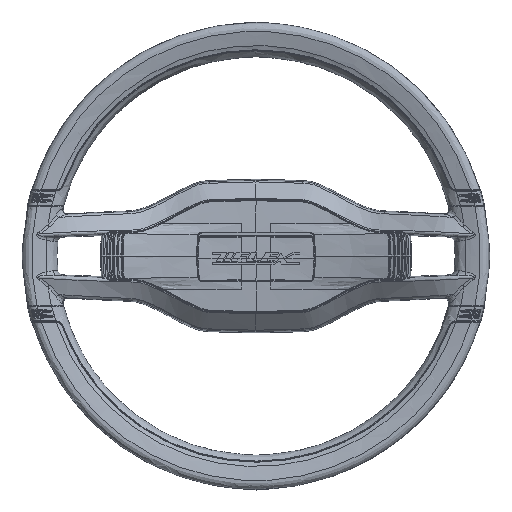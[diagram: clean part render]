
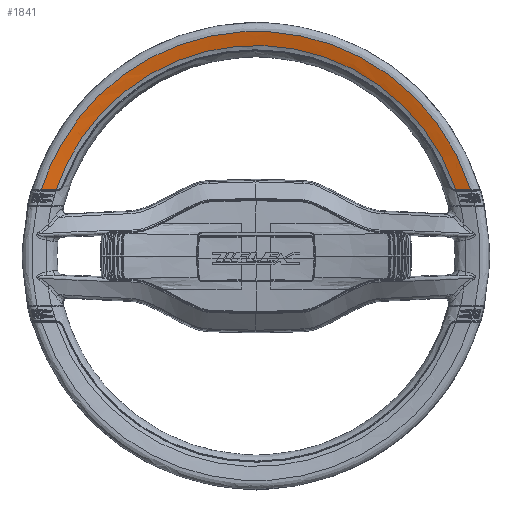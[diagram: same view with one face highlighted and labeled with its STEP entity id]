
A CAD part, top view. The second image highlights one B-rep face of the part: STEP entity #1841.
In plain terms, the highlighted free-form (B-spline) face has degree [3, 2] with [4, 5] control points.
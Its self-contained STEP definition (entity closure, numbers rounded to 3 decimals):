
#1841=ADVANCED_FACE($,(#5433),#45160,.T.);
#5433=FACE_OUTER_BOUND($,#9055,.T.);
#9055=EDGE_LOOP($,(#20186,#20187,#20188,#20189,#20190,#20191));
#20186=ORIENTED_EDGE($,*,*,#34113,.T.);
#20187=ORIENTED_EDGE($,*,*,#34115,.F.);
#20188=ORIENTED_EDGE($,*,*,#34116,.F.);
#20189=ORIENTED_EDGE($,*,*,#34117,.F.);
#20190=ORIENTED_EDGE($,*,*,#34118,.F.);
#20191=ORIENTED_EDGE($,*,*,#34114,.F.);
#34113=EDGE_CURVE($,#41547,#41549,#49233,.T.);
#34114=EDGE_CURVE($,#41547,#41550,#53683,.T.);
#34115=EDGE_CURVE($,#41551,#41549,#53684,.T.);
#34116=EDGE_CURVE($,#41552,#41551,#53685,.T.);
#34117=EDGE_CURVE($,#41553,#41552,#49234,.T.);
#34118=EDGE_CURVE($,#41550,#41553,#53686,.T.);
#41547=VERTEX_POINT($,#145639);
#41549=VERTEX_POINT($,#145641);
#41550=VERTEX_POINT($,#145642);
#41551=VERTEX_POINT($,#145643);
#41552=VERTEX_POINT($,#145644);
#41553=VERTEX_POINT($,#145645);
#45160=(
BOUNDED_SURFACE()
B_SPLINE_SURFACE(3,2,((#131027,#131028,#131029,#131030,#131031),(#131032,
#131033,#131034,#131035,#131036),(#131037,#131038,#131039,#131040,#131041),
(#131042,#131043,#131044,#131045,#131046)),.UNSPECIFIED.,.F.,.F.,.F.)
B_SPLINE_SURFACE_WITH_KNOTS((4,4),(3,2,3),(5.862,17.343),
(345.073,579.732,814.391),.UNSPECIFIED.)
GEOMETRIC_REPRESENTATION_ITEM()
RATIONAL_B_SPLINE_SURFACE(((1.,0.805,1.,0.805,1.),
(1.,0.805,1.,0.805,1.),(1.,0.805,1.,
0.805,1.),(1.,0.805,1.,0.805,1.)))
REPRESENTATION_ITEM($)
SURFACE()
);
#49233=(
BOUNDED_CURVE()
B_SPLINE_CURVE(2,(#108094,#108095,#108096,#108097,#108098),.UNSPECIFIED.,
.F.,.F.)
B_SPLINE_CURVE_WITH_KNOTS((3,2,3),(321.187,533.751,746.315),
.UNSPECIFIED.)
CURVE()
GEOMETRIC_REPRESENTATION_ITEM()
RATIONAL_B_SPLINE_CURVE((1.,0.811,1.,0.811,1.))
REPRESENTATION_ITEM($)
);
#49234=(
BOUNDED_CURVE()
B_SPLINE_CURVE(2,(#108111,#108112,#108113,#108114,#108115),.UNSPECIFIED.,
.F.,.F.)
B_SPLINE_CURVE_WITH_KNOTS((3,2,3),(-454.837,-227.418,0.),
.UNSPECIFIED.)
CURVE()
GEOMETRIC_REPRESENTATION_ITEM()
RATIONAL_B_SPLINE_CURVE((1.,0.805,1.,0.805,1.))
REPRESENTATION_ITEM($)
);
#53683=B_SPLINE_CURVE_WITH_KNOTS($,3,(#108099,#108100,#108101,#108102),.UNSPECIFIED.,
.F.,.F.,(4,4),(-1.,0.),.UNSPECIFIED.);
#53684=B_SPLINE_CURVE_WITH_KNOTS($,3,(#108103,#108104,#108105,#108106),.UNSPECIFIED.,
.F.,.F.,(4,4),(-1.,0.),.UNSPECIFIED.);
#53685=B_SPLINE_CURVE_WITH_KNOTS($,3,(#108107,#108108,#108109,#108110),.UNSPECIFIED.,
.F.,.F.,(4,4),(-1.,0.),.UNSPECIFIED.);
#53686=B_SPLINE_CURVE_WITH_KNOTS($,3,(#108116,#108117,#108118,#108119),.UNSPECIFIED.,
.F.,.F.,(4,4),(-1.,0.),.UNSPECIFIED.);
#108094=CARTESIAN_POINT($,(159.144,52.681,79.021));
#108095=CARTESIAN_POINT($,(121.09,167.636,79.021));
#108096=CARTESIAN_POINT($,(0.,167.636,79.021));
#108097=CARTESIAN_POINT($,(-121.09,167.636,79.021));
#108098=CARTESIAN_POINT($,(-159.144,52.681,79.021));
#108099=CARTESIAN_POINT($,(159.144,52.681,79.021));
#108100=CARTESIAN_POINT($,(159.228,52.677,79.047));
#108101=CARTESIAN_POINT($,(159.312,52.675,79.074));
#108102=CARTESIAN_POINT($,(159.397,52.676,79.101));
#108103=CARTESIAN_POINT($,(-159.397,52.676,79.101));
#108104=CARTESIAN_POINT($,(-159.312,52.675,79.074));
#108105=CARTESIAN_POINT($,(-159.228,52.677,79.047));
#108106=CARTESIAN_POINT($,(-159.144,52.681,79.021));
#108107=CARTESIAN_POINT($,(-170.897,52.709,81.922));
#108108=CARTESIAN_POINT($,(-166.992,52.699,81.219));
#108109=CARTESIAN_POINT($,(-163.022,52.689,80.25));
#108110=CARTESIAN_POINT($,(-159.397,52.676,79.101));
#108111=CARTESIAN_POINT($,(170.897,52.709,81.922));
#108112=CARTESIAN_POINT($,(131.994,178.841,81.922));
#108113=CARTESIAN_POINT($,(0.,178.841,81.922));
#108114=CARTESIAN_POINT($,(-131.994,178.841,81.922));
#108115=CARTESIAN_POINT($,(-170.897,52.709,81.922));
#108116=CARTESIAN_POINT($,(159.397,52.676,79.101));
#108117=CARTESIAN_POINT($,(163.022,52.689,80.25));
#108118=CARTESIAN_POINT($,(166.992,52.699,81.219));
#108119=CARTESIAN_POINT($,(170.897,52.709,81.922));
#131027=CARTESIAN_POINT($,(170.897,52.709,81.922));
#131028=CARTESIAN_POINT($,(131.994,178.841,81.922));
#131029=CARTESIAN_POINT($,(0.,178.841,81.922));
#131030=CARTESIAN_POINT($,(-131.994,178.841,81.922));
#131031=CARTESIAN_POINT($,(-170.897,52.709,81.922));
#131032=CARTESIAN_POINT($,(167.263,51.588,81.206));
#131033=CARTESIAN_POINT($,(129.188,175.038,81.206));
#131034=CARTESIAN_POINT($,(0.,175.038,81.206));
#131035=CARTESIAN_POINT($,(-129.188,175.038,81.206));
#131036=CARTESIAN_POINT($,(-167.263,51.588,81.206));
#131037=CARTESIAN_POINT($,(163.544,50.441,80.206));
#131038=CARTESIAN_POINT($,(126.316,171.147,80.206));
#131039=CARTESIAN_POINT($,(0.,171.147,80.206));
#131040=CARTESIAN_POINT($,(-126.316,171.147,80.206));
#131041=CARTESIAN_POINT($,(-163.544,50.441,80.206));
#131042=CARTESIAN_POINT($,(160.19,49.407,79.021));
#131043=CARTESIAN_POINT($,(123.725,167.636,79.021));
#131044=CARTESIAN_POINT($,(0.,167.636,79.021));
#131045=CARTESIAN_POINT($,(-123.725,167.636,79.021));
#131046=CARTESIAN_POINT($,(-160.19,49.407,79.021));
#145639=CARTESIAN_POINT($,(159.144,52.681,79.021));
#145641=CARTESIAN_POINT($,(-159.144,52.681,79.021));
#145642=CARTESIAN_POINT($,(159.397,52.676,79.101));
#145643=CARTESIAN_POINT($,(-159.397,52.676,79.101));
#145644=CARTESIAN_POINT($,(-170.897,52.709,81.922));
#145645=CARTESIAN_POINT($,(170.897,52.709,81.922));
